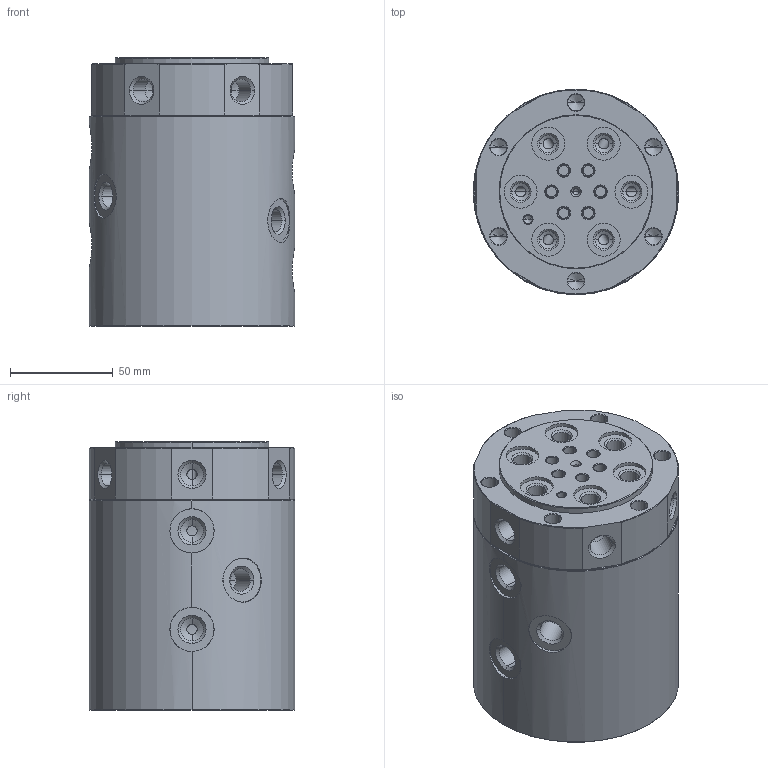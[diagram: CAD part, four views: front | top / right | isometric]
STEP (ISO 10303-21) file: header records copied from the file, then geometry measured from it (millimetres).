
FILE_DESCRIPTION(/* description */ (''),/* implementation_level */ '2;1');
FILE_NAME(/* name */ '06.stp',/* time_stamp */ '2024-09-03T09:09:09+08:00',/* author */ (''),/* organization */ (''),/* preprocessor_version */ 'ST-DEVELOPER v16.7',/* originating_system */ 'SIEMENS PLM Software NX 12.0',/* authorisation */ '');
FILE_SCHEMA (('AP203_CONFIGURATION_CONTROLLED_3D_DESIGN_OF_MECHANICAL_PARTS_AND_ASSEMBLIES_MIM_LF { 1 0 10303 403 2 1 2}'));
Length unit declared in the file: millimetre
Products named in the file (1): TMA06-S-A_stp
Bounding box: 100 x 100 x 131 mm (x, y, z)
Volume: 990584.7 mm3; surface area: 90926.2 mm2
Topology: 2 solids, 2 shells, 366 faces, 858 edges, 492 vertices
Faces by surface type: cylinder 170, cone 160, plane 32, torus 4
Entity records: 10828 total; most frequent: CARTESIAN_POINT 2231, DIRECTION 1946, ORIENTED_EDGE 1660, EDGE_CURVE 830, AXIS2_PLACEMENT_3D 799, VERTEX_POINT 492, EDGE_LOOP 426, CIRCLE 384
